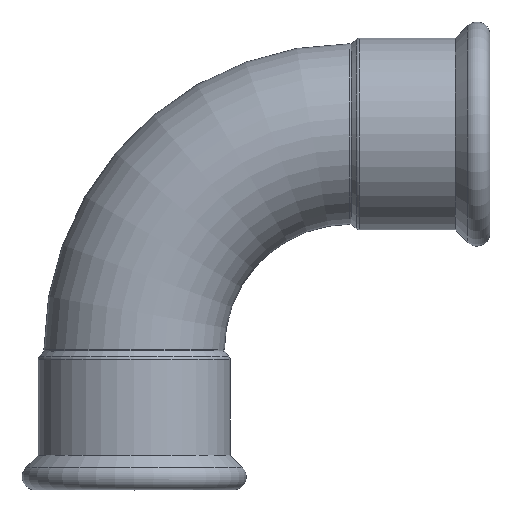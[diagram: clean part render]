
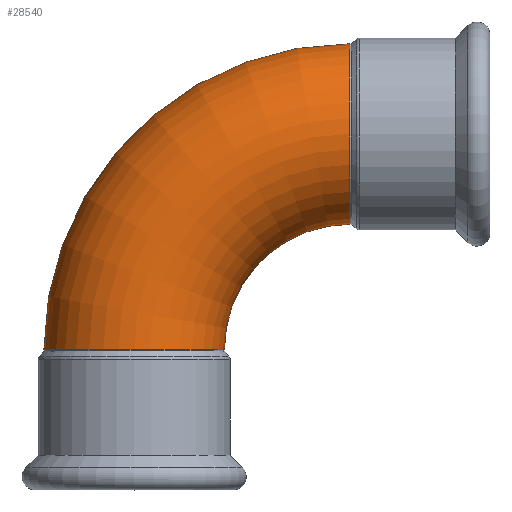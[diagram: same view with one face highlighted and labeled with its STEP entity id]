
A CAD part, top view. The second image highlights one B-rep face of the part: STEP entity #28540.
In plain terms, the highlighted toroidal (fillet/blend) face has major radius 91 mm and minor radius 38.05 mm.
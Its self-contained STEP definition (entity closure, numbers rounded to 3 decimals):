
#13670=CARTESIAN_POINT('',(4.,-38.05,0.)
);
#13680=VERTEX_POINT('',#13670);
#13760=CARTESIAN_POINT('',(4.,38.05,0.));
#13770=VERTEX_POINT('',#13760);
#13800=CARTESIAN_POINT('',(4.,0.,0.));
#13810=DIRECTION('',(1.,0.,0.));
#13820=DIRECTION('',(0.,-1.,0.));
#13830=AXIS2_PLACEMENT_3D('',#13800,#13810,#13820);
#13840=CIRCLE('',#13830,38.05);
#18490=CARTESIAN_POINT('',(-48.95,91.,0.));
#18500=VERTEX_POINT('',#18490);
#18640=CARTESIAN_POINT('',(-125.05,91.,0.));
#18650=VERTEX_POINT('',#18640);
#18730=CARTESIAN_POINT('',(4.,91.,0.));
#18740=DIRECTION('',(0.,0.,1.));
#18750=DIRECTION('',(-1.,0.,0.));
#18760=AXIS2_PLACEMENT_3D('',#18730,#18740,#18750);
#18770=TOROIDAL_SURFACE('',#18760,91.,38.05);
#18780=CARTESIAN_POINT('',(4.,91.,0.));
#18790=DIRECTION('',(0.,0.,1.));
#18800=DIRECTION('',(-1.,0.,0.));
#18810=AXIS2_PLACEMENT_3D('',#18780,#18790,#18800);
#18820=CIRCLE('',#18810,52.95);
#18830=EDGE_CURVE('',#18500,#13770,#18820,.T.);
#18870=CARTESIAN_POINT('',(4.,91.,0.));
#18880=DIRECTION('',(0.,0.,1.));
#18890=DIRECTION('',(-1.,0.,0.));
#18900=AXIS2_PLACEMENT_3D('',#18870,#18880,#18890);
#18910=CIRCLE('',#18900,129.05);
#18920=EDGE_CURVE('',#18650,#13680,#18910,.T.);
#28410=CARTESIAN_POINT('',(-87.,91.,0.));
#28420=DIRECTION('',(0.,-1.,0.));
#28430=DIRECTION('',(-1.,0.,0.));
#28440=AXIS2_PLACEMENT_3D('',#28410,#28420,#28430);
#28450=CIRCLE('',#28440,38.05);
#28460=EDGE_CURVE('',#18500,#18650,#28450,.T.);
#28470=ORIENTED_EDGE('',*,*,#28460,.T.);
#28480=ORIENTED_EDGE('',*,*,#18830,.F.);
#28490=EDGE_CURVE('',#13770,#13680,#13840,.T.);
#28500=ORIENTED_EDGE('',*,*,#28490,.F.);
#28510=ORIENTED_EDGE('',*,*,#18920,.T.);
#28520=EDGE_LOOP('',(#28510,#28500,#28480,#28470));
#28530=FACE_OUTER_BOUND('',#28520,.T.);
#28540=ADVANCED_FACE('',(#28530),#18770,.T.);
